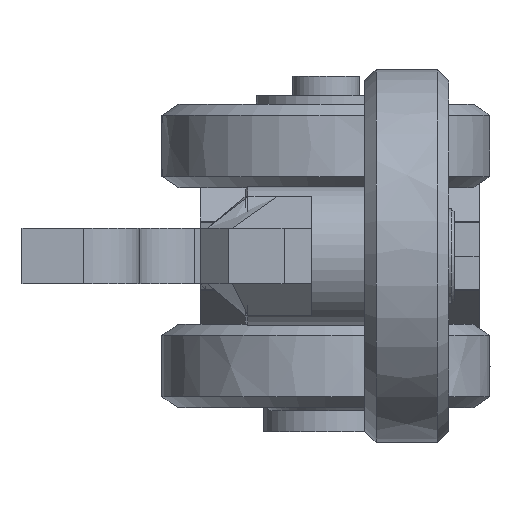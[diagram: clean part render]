
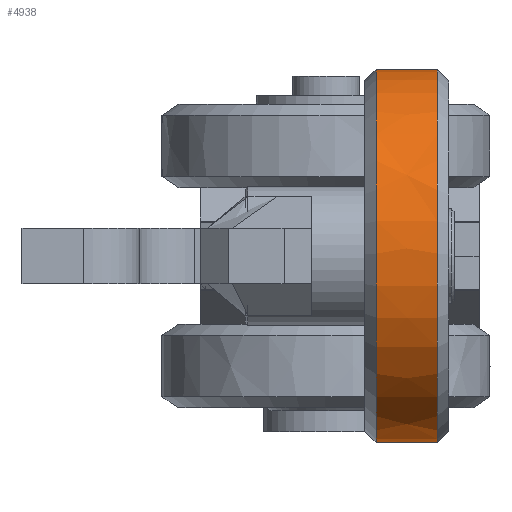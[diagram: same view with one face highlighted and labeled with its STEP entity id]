
A CAD part, left-side view. The second image highlights one B-rep face of the part: STEP entity #4938.
In plain terms, the highlighted free-form (B-spline) face has degree [2, 2] with [3, 9] control points.
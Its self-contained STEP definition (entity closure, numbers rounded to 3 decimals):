
#178=(
BOUNDED_SURFACE()
B_SPLINE_SURFACE(2,2,((#8354,#8355,#8356,#8357,#8358,#8359,#8360,#8361,
#8362),(#8363,#8364,#8365,#8366,#8367,#8368,#8369,#8370,#8371),(#8372,#8373,
#8374,#8375,#8376,#8377,#8378,#8379,#8380)),.UNSPECIFIED.,.F.,.T.,.F.)
B_SPLINE_SURFACE_WITH_KNOTS((3,3),(3,2,2,2,3),(-0.028,0.028),
(-3.142,-1.571,0.,1.571,3.142),
 .UNSPECIFIED.)
GEOMETRIC_REPRESENTATION_ITEM()
RATIONAL_B_SPLINE_SURFACE(((1.,0.707,1.,0.707,1.,
0.707,1.,0.707,1.),(1.,0.707,
1.,0.707,1.,0.707,1.,
0.707,1.),(1.,0.707,1.,0.707,
1.,0.707,1.,0.707,1.)))
REPRESENTATION_ITEM('')
SURFACE()
);
#388=(
BOUNDED_CURVE()
B_SPLINE_CURVE(2,(#8385,#8386,#8387),.UNSPECIFIED.,.F.,.F.)
B_SPLINE_CURVE_WITH_KNOTS((3,3),(-0.028,0.028),
 .UNSPECIFIED.)
CURVE()
GEOMETRIC_REPRESENTATION_ITEM()
RATIONAL_B_SPLINE_CURVE((1.,1.,1.))
REPRESENTATION_ITEM('')
);
#576=CIRCLE('',#5324,33.424);
#577=CIRCLE('',#5325,33.424);
#578=CIRCLE('',#5326,33.424);
#579=CIRCLE('',#5327,33.424);
#944=FACE_OUTER_BOUND('',#1266,.T.);
#1266=EDGE_LOOP('',(#4010,#4011,#4012,#4013,#4014,#4015));
#2400=VERTEX_POINT('',#8350);
#2401=VERTEX_POINT('',#8351);
#2402=VERTEX_POINT('',#8381);
#2403=VERTEX_POINT('',#8382);
#2984=EDGE_CURVE('',#2400,#2401,#576,.T.);
#2985=EDGE_CURVE('',#2401,#2400,#577,.T.);
#2986=EDGE_CURVE('',#2402,#2403,#578,.T.);
#2987=EDGE_CURVE('',#2403,#2402,#579,.T.);
#2988=EDGE_CURVE('',#2403,#2401,#388,.T.);
#4010=ORIENTED_EDGE('',*,*,#2986,.F.);
#4011=ORIENTED_EDGE('',*,*,#2987,.F.);
#4012=ORIENTED_EDGE('',*,*,#2988,.T.);
#4013=ORIENTED_EDGE('',*,*,#2985,.T.);
#4014=ORIENTED_EDGE('',*,*,#2984,.T.);
#4015=ORIENTED_EDGE('',*,*,#2988,.F.);
#4938=ADVANCED_FACE('',(#944),#178,.F.);
#5324=AXIS2_PLACEMENT_3D('',#8352,#6329,#6330);
#5325=AXIS2_PLACEMENT_3D('',#8353,#6331,#6332);
#5326=AXIS2_PLACEMENT_3D('',#8383,#6333,#6334);
#5327=AXIS2_PLACEMENT_3D('',#8384,#6335,#6336);
#6329=DIRECTION('center_axis',(0.,1.,0.));
#6330=DIRECTION('ref_axis',(-1.,0.,0.));
#6331=DIRECTION('center_axis',(0.,1.,0.));
#6332=DIRECTION('ref_axis',(-1.,0.,0.));
#6333=DIRECTION('center_axis',(0.,1.,0.));
#6334=DIRECTION('ref_axis',(-1.,0.,0.));
#6335=DIRECTION('center_axis',(0.,1.,0.));
#6336=DIRECTION('ref_axis',(-1.,0.,0.));
#8350=CARTESIAN_POINT('',(-33.424,-10.5,0.));
#8351=CARTESIAN_POINT('',(0.,-10.5,-33.424));
#8352=CARTESIAN_POINT('Origin',(0.,-10.5,0.));
#8353=CARTESIAN_POINT('Origin',(0.,-10.5,0.));
#8354=CARTESIAN_POINT('Ctrl Pts',(0.,-10.5,-33.424));
#8355=CARTESIAN_POINT('Ctrl Pts',(-33.424,-10.5,-33.424));
#8356=CARTESIAN_POINT('Ctrl Pts',(-33.424,-10.5,0.));
#8357=CARTESIAN_POINT('Ctrl Pts',(-33.424,-10.5,33.424));
#8358=CARTESIAN_POINT('Ctrl Pts',(0.,-10.5,33.424));
#8359=CARTESIAN_POINT('Ctrl Pts',(33.424,-10.5,33.424));
#8360=CARTESIAN_POINT('Ctrl Pts',(33.424,-10.5,0.));
#8361=CARTESIAN_POINT('Ctrl Pts',(33.424,-10.5,-33.424));
#8362=CARTESIAN_POINT('Ctrl Pts',(0.,-10.5,-33.424));
#8363=CARTESIAN_POINT('Ctrl Pts',(0.,-5.,-33.576));
#8364=CARTESIAN_POINT('Ctrl Pts',(-33.576,-5.,-33.576));
#8365=CARTESIAN_POINT('Ctrl Pts',(-33.576,-5.,0.));
#8366=CARTESIAN_POINT('Ctrl Pts',(-33.576,-5.,33.576));
#8367=CARTESIAN_POINT('Ctrl Pts',(0.,-5.,33.576));
#8368=CARTESIAN_POINT('Ctrl Pts',(33.576,-5.,33.576));
#8369=CARTESIAN_POINT('Ctrl Pts',(33.576,-5.,0.));
#8370=CARTESIAN_POINT('Ctrl Pts',(33.576,-5.,-33.576));
#8371=CARTESIAN_POINT('Ctrl Pts',(0.,-5.,-33.576));
#8372=CARTESIAN_POINT('Ctrl Pts',(0.,0.5,-33.424));
#8373=CARTESIAN_POINT('Ctrl Pts',(-33.424,0.5,-33.424));
#8374=CARTESIAN_POINT('Ctrl Pts',(-33.424,0.5,0.));
#8375=CARTESIAN_POINT('Ctrl Pts',(-33.424,0.5,33.424));
#8376=CARTESIAN_POINT('Ctrl Pts',(0.,0.5,33.424));
#8377=CARTESIAN_POINT('Ctrl Pts',(33.424,0.5,33.424));
#8378=CARTESIAN_POINT('Ctrl Pts',(33.424,0.5,0.));
#8379=CARTESIAN_POINT('Ctrl Pts',(33.424,0.5,-33.424));
#8380=CARTESIAN_POINT('Ctrl Pts',(0.,0.5,-33.424));
#8381=CARTESIAN_POINT('',(-33.424,0.5,0.));
#8382=CARTESIAN_POINT('',(0.,0.5,-33.424));
#8383=CARTESIAN_POINT('Origin',(0.,0.5,0.));
#8384=CARTESIAN_POINT('Origin',(0.,0.5,0.));
#8385=CARTESIAN_POINT('Ctrl Pts',(0.,0.5,-33.424));
#8386=CARTESIAN_POINT('Ctrl Pts',(0.,-5.,-33.576));
#8387=CARTESIAN_POINT('Ctrl Pts',(0.,-10.5,-33.424));
